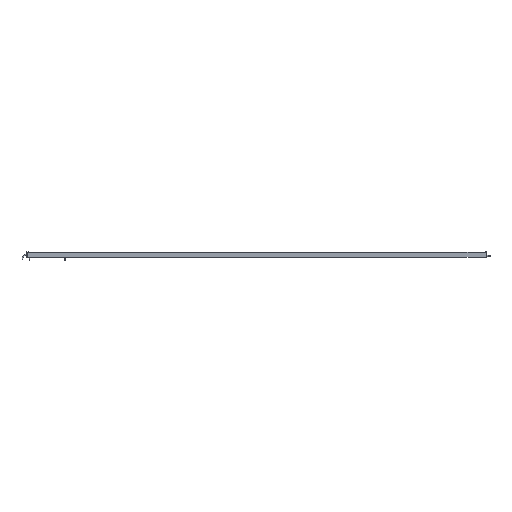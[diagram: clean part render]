
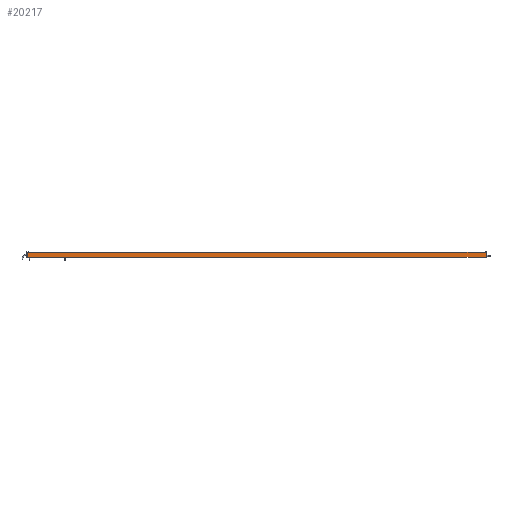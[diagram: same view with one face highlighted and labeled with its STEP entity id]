
A CAD part, left-side view. The second image highlights one B-rep face of the part: STEP entity #20217.
In plain terms, the highlighted planar face has unit normal (-1, 0, 0).
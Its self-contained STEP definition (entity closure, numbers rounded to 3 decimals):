
#71 = ORIENTED_EDGE ( 'NONE', *, *, #9127, .F. ) ;
#507 = DIRECTION ( 'NONE',  ( 0., 0., -1. ) ) ;
#1611 = ORIENTED_EDGE ( 'NONE', *, *, #19469, .T. ) ;
#1964 = CARTESIAN_POINT ( 'NONE',  ( -9., 0., 28.5 ) ) ;
#2165 = ORIENTED_EDGE ( 'NONE', *, *, #18754, .T. ) ;
#2675 = EDGE_CURVE ( 'NONE', #9439, #3424, #8671, .T. ) ;
#3424 = VERTEX_POINT ( 'NONE', #14571 ) ;
#3642 = AXIS2_PLACEMENT_3D ( 'NONE', #10218, #7137, #18258 ) ;
#5534 = DIRECTION ( 'NONE',  ( 0., -1., 0. ) ) ;
#6358 = VECTOR ( 'NONE', #507, 1000. ) ;
#7137 = DIRECTION ( 'NONE',  ( -1., 0., 0. ) ) ;
#8119 = FACE_OUTER_BOUND ( 'NONE', #10033, .T. ) ;
#8652 = CARTESIAN_POINT ( 'NONE',  ( -9., 2595., 28.5 ) ) ;
#8671 = LINE ( 'NONE', #16630, #8921 ) ;
#8739 = PLANE ( 'NONE',  #3642 ) ;
#8795 = CARTESIAN_POINT ( 'NONE',  ( -9., 2595., 0.5 ) ) ;
#8921 = VECTOR ( 'NONE', #14945, 1000. ) ;
#9127 = EDGE_CURVE ( 'NONE', #3424, #12382, #11205, .T. ) ;
#9439 = VERTEX_POINT ( 'NONE', #11363 ) ;
#10033 = EDGE_LOOP ( 'NONE', ( #71, #14738, #2165, #1611 ) ) ;
#10218 = CARTESIAN_POINT ( 'NONE',  ( -9., 2595., 28.5 ) ) ;
#10803 = VERTEX_POINT ( 'NONE', #18071 ) ;
#11205 = LINE ( 'NONE', #1964, #20397 ) ;
#11363 = CARTESIAN_POINT ( 'NONE',  ( -9., 2595., 28.5 ) ) ;
#12142 = VECTOR ( 'NONE', #5534, 1000. ) ;
#12382 = VERTEX_POINT ( 'NONE', #17186 ) ;
#14571 = CARTESIAN_POINT ( 'NONE',  ( -9., 0., 28.5 ) ) ;
#14738 = ORIENTED_EDGE ( 'NONE', *, *, #2675, .F. ) ;
#14945 = DIRECTION ( 'NONE',  ( 0., -1., 0. ) ) ;
#16630 = CARTESIAN_POINT ( 'NONE',  ( -9., 2595., 28.5 ) ) ;
#16797 = LINE ( 'NONE', #8652, #6358 ) ;
#17186 = CARTESIAN_POINT ( 'NONE',  ( -9., 0., 0.5 ) ) ;
#18071 = CARTESIAN_POINT ( 'NONE',  ( -9., 2595., 0.5 ) ) ;
#18258 = DIRECTION ( 'NONE',  ( 0., -1., 0. ) ) ;
#18754 = EDGE_CURVE ( 'NONE', #9439, #10803, #16797, .T. ) ;
#19080 = LINE ( 'NONE', #8795, #12142 ) ;
#19469 = EDGE_CURVE ( 'NONE', #10803, #12382, #19080, .T. ) ;
#19647 = DIRECTION ( 'NONE',  ( 0., 0., -1. ) ) ;
#20217 = ADVANCED_FACE ( 'NONE', ( #8119 ), #8739, .T. ) ;
#20397 = VECTOR ( 'NONE', #19647, 1000. ) ;
